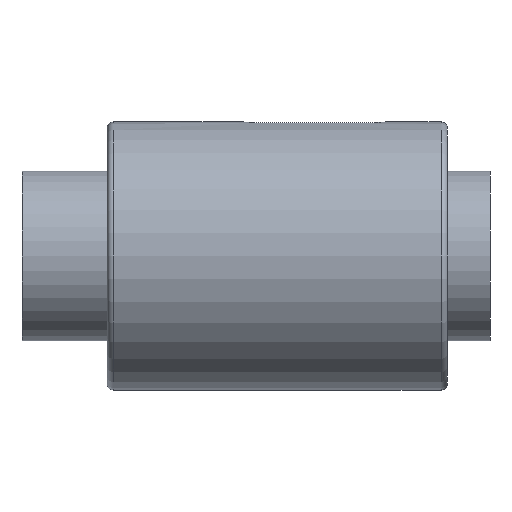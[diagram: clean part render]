
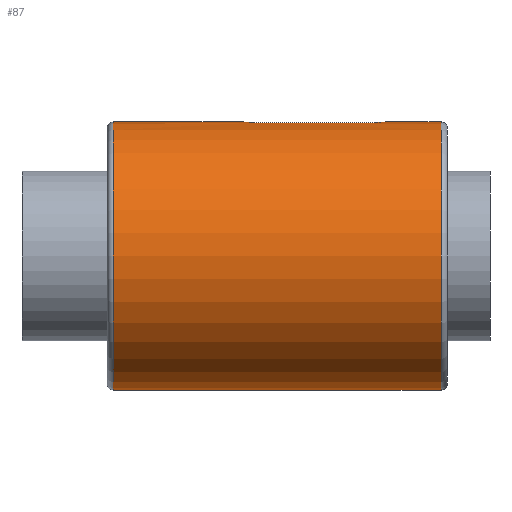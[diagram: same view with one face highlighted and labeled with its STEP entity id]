
A CAD part, left-side view. The second image highlights one B-rep face of the part: STEP entity #87.
In plain terms, the highlighted cylindrical face has radius 31.5 mm (diameter 63 mm), a full revolution.
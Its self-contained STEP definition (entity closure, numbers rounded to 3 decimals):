
#29=LINE('',#484,#37);
#30=LINE('',#518,#38);
#37=VECTOR('',#365,1.);
#38=VECTOR('',#366,1.);
#45=B_SPLINE_CURVE_WITH_KNOTS('',3,(#451,#452,#453,#454,#455,#456,#457,#458,
#459,#460,#461,#462,#463,#464,#465,#466,#467,#468,#469,#470,#471,#472,#473,
#474,#475,#476,#477,#478,#479,#480,#481),.UNSPECIFIED.,.F.,.F.,(4,3,3,3,
3,3,3,3,3,3,4),(0.,0.107,0.214,0.322,
0.429,0.536,0.643,0.75,0.858,
0.965,1.),.UNSPECIFIED.);
#46=B_SPLINE_CURVE_WITH_KNOTS('',3,(#486,#487,#488,#489,#490,#491,#492,#493,
#494,#495,#496,#497,#498,#499,#500,#501,#502,#503,#504,#505,#506,#507,#508,
#509,#510,#511,#512,#513,#514,#515,#516),.UNSPECIFIED.,.F.,.F.,(4,3,3,3,
3,3,3,3,3,3,4),(0.,0.107,0.214,0.322,
0.429,0.536,0.643,0.75,0.858,
0.965,1.),.UNSPECIFIED.);
#87=ADVANCED_FACE('',(#115,#116,#117),#107,.T.);
#107=CYLINDRICAL_SURFACE('',#316,31.5);
#115=FACE_BOUND('',#148,.T.);
#116=FACE_BOUND('',#149,.T.);
#117=FACE_BOUND('',#150,.T.);
#148=EDGE_LOOP('',(#186));
#149=EDGE_LOOP('',(#187));
#150=EDGE_LOOP('',(#188,#189,#190,#191));
#186=ORIENTED_EDGE('',*,*,#264,.T.);
#187=ORIENTED_EDGE('',*,*,#265,.T.);
#188=ORIENTED_EDGE('',*,*,#266,.F.);
#189=ORIENTED_EDGE('',*,*,#267,.F.);
#190=ORIENTED_EDGE('',*,*,#268,.F.);
#191=ORIENTED_EDGE('',*,*,#269,.F.);
#240=VERTEX_POINT('',#448);
#241=VERTEX_POINT('',#450);
#242=VERTEX_POINT('',#482);
#243=VERTEX_POINT('',#483);
#244=VERTEX_POINT('',#485);
#245=VERTEX_POINT('',#517);
#264=EDGE_CURVE('',#240,#240,#292,.T.);
#265=EDGE_CURVE('',#241,#241,#293,.T.);
#266=EDGE_CURVE('',#242,#243,#45,.T.);
#267=EDGE_CURVE('',#244,#242,#29,.T.);
#268=EDGE_CURVE('',#245,#244,#46,.T.);
#269=EDGE_CURVE('',#243,#245,#30,.T.);
#292=CIRCLE('',#314,31.5);
#293=CIRCLE('',#315,31.5);
#314=AXIS2_PLACEMENT_3D('',#447,#361,#362);
#315=AXIS2_PLACEMENT_3D('',#449,#363,#364);
#316=AXIS2_PLACEMENT_3D('',#519,#367,#368);
#361=DIRECTION('',(0.,1.,0.));
#362=DIRECTION('',(0.,0.,1.));
#363=DIRECTION('',(0.,-1.,0.));
#364=DIRECTION('',(0.,0.,1.));
#365=DIRECTION('',(0.,-1.,0.));
#366=DIRECTION('',(0.,1.,0.));
#367=DIRECTION('',(0.,-1.,0.));
#368=DIRECTION('',(0.,0.,-1.));
#447=CARTESIAN_POINT('',(0.,1.5,0.));
#448=CARTESIAN_POINT('',(0.,1.5,31.5));
#449=CARTESIAN_POINT('',(0.,78.5,0.));
#450=CARTESIAN_POINT('',(0.,78.5,31.5));
#451=CARTESIAN_POINT('',(-3.,17.5,31.357));
#452=CARTESIAN_POINT('',(-3.,17.165,31.357));
#453=CARTESIAN_POINT('',(-2.942,16.826,31.362));
#454=CARTESIAN_POINT('',(-2.832,16.51,31.372));
#455=CARTESIAN_POINT('',(-2.721,16.194,31.382));
#456=CARTESIAN_POINT('',(-2.555,15.892,31.397));
#457=CARTESIAN_POINT('',(-2.346,15.631,31.412));
#458=CARTESIAN_POINT('',(-2.137,15.368,31.428));
#459=CARTESIAN_POINT('',(-1.88,15.138,31.445));
#460=CARTESIAN_POINT('',(-1.596,14.96,31.46));
#461=CARTESIAN_POINT('',(-1.312,14.781,31.474));
#462=CARTESIAN_POINT('',(-0.992,14.649,31.486));
#463=CARTESIAN_POINT('',(-0.664,14.574,31.493));
#464=CARTESIAN_POINT('',(-0.337,14.5,31.5));
#465=CARTESIAN_POINT('',(0.008,14.481,31.502));
#466=CARTESIAN_POINT('',(0.341,14.519,31.498));
#467=CARTESIAN_POINT('',(0.673,14.557,31.495));
#468=CARTESIAN_POINT('',(1.003,14.653,31.485));
#469=CARTESIAN_POINT('',(1.304,14.798,31.473));
#470=CARTESIAN_POINT('',(1.605,14.944,31.461));
#471=CARTESIAN_POINT('',(1.886,15.143,31.444));
#472=CARTESIAN_POINT('',(2.122,15.38,31.428));
#473=CARTESIAN_POINT('',(2.36,15.617,31.412));
#474=CARTESIAN_POINT('',(2.559,15.899,31.396));
#475=CARTESIAN_POINT('',(2.705,16.202,31.384));
#476=CARTESIAN_POINT('',(2.85,16.505,31.371));
#477=CARTESIAN_POINT('',(2.945,16.837,31.362));
#478=CARTESIAN_POINT('',(2.982,17.172,31.359));
#479=CARTESIAN_POINT('',(2.994,17.281,31.357));
#480=CARTESIAN_POINT('',(3.,17.39,31.357));
#481=CARTESIAN_POINT('',(3.,17.5,31.357));
#482=CARTESIAN_POINT('',(-3.,17.5,31.357));
#483=CARTESIAN_POINT('',(3.,17.5,31.357));
#484=CARTESIAN_POINT('',(-3.,80.,31.357));
#485=CARTESIAN_POINT('',(-3.,45.,31.357));
#486=CARTESIAN_POINT('',(3.,45.,31.357));
#487=CARTESIAN_POINT('',(3.,45.335,31.357));
#488=CARTESIAN_POINT('',(2.942,45.674,31.362));
#489=CARTESIAN_POINT('',(2.832,45.99,31.372));
#490=CARTESIAN_POINT('',(2.721,46.306,31.382));
#491=CARTESIAN_POINT('',(2.555,46.608,31.397));
#492=CARTESIAN_POINT('',(2.346,46.869,31.412));
#493=CARTESIAN_POINT('',(2.137,47.132,31.428));
#494=CARTESIAN_POINT('',(1.88,47.362,31.445));
#495=CARTESIAN_POINT('',(1.596,47.54,31.46));
#496=CARTESIAN_POINT('',(1.312,47.719,31.474));
#497=CARTESIAN_POINT('',(0.992,47.851,31.486));
#498=CARTESIAN_POINT('',(0.664,47.926,31.493));
#499=CARTESIAN_POINT('',(0.337,48.,31.5));
#500=CARTESIAN_POINT('',(-0.008,48.019,31.502));
#501=CARTESIAN_POINT('',(-0.341,47.981,31.498));
#502=CARTESIAN_POINT('',(-0.673,47.943,31.495));
#503=CARTESIAN_POINT('',(-1.003,47.847,31.485));
#504=CARTESIAN_POINT('',(-1.304,47.702,31.473));
#505=CARTESIAN_POINT('',(-1.605,47.556,31.461));
#506=CARTESIAN_POINT('',(-1.886,47.357,31.444));
#507=CARTESIAN_POINT('',(-2.122,47.12,31.428));
#508=CARTESIAN_POINT('',(-2.36,46.883,31.412));
#509=CARTESIAN_POINT('',(-2.559,46.601,31.396));
#510=CARTESIAN_POINT('',(-2.705,46.298,31.384));
#511=CARTESIAN_POINT('',(-2.85,45.995,31.371));
#512=CARTESIAN_POINT('',(-2.945,45.663,31.362));
#513=CARTESIAN_POINT('',(-2.982,45.328,31.359));
#514=CARTESIAN_POINT('',(-2.994,45.219,31.357));
#515=CARTESIAN_POINT('',(-3.,45.11,31.357));
#516=CARTESIAN_POINT('',(-3.,45.,31.357));
#517=CARTESIAN_POINT('',(3.,45.,31.357));
#518=CARTESIAN_POINT('',(3.,80.,31.357));
#519=CARTESIAN_POINT('',(0.,80.,0.));
